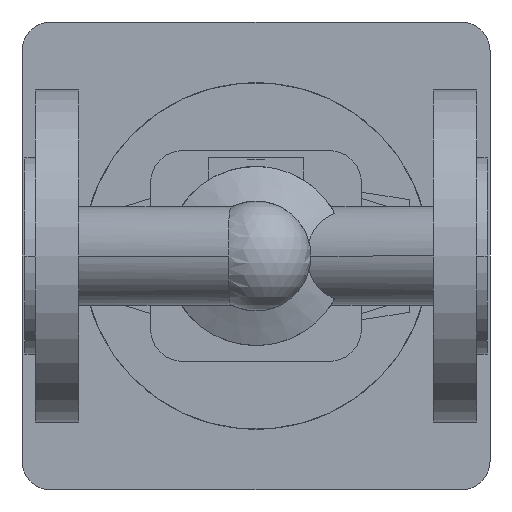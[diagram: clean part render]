
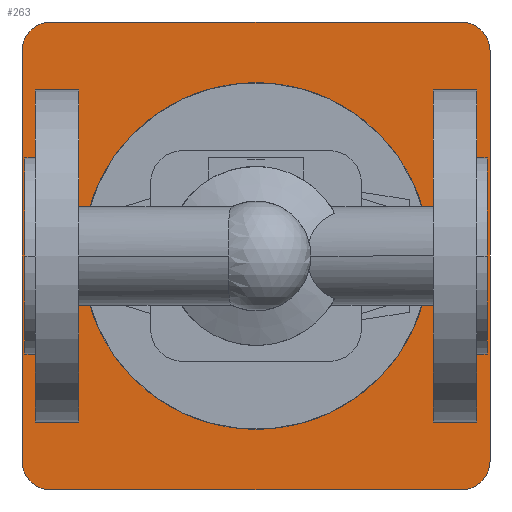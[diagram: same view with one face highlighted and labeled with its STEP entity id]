
A CAD part, front view. The second image highlights one B-rep face of the part: STEP entity #263.
In plain terms, the highlighted planar face has unit normal (0, -1, 0).
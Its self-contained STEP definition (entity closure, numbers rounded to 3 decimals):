
#263 = ADVANCED_FACE( '', ( #603, #604 ), #605, .F. );
#603 = FACE_OUTER_BOUND( '', #969, .T. );
#604 = FACE_BOUND( '', #970, .T. );
#605 = PLANE( '', #971 );
#969 = EDGE_LOOP( '', ( #2118, #2119, #2120, #2121, #2122, #2123, #2124, #2125 ) );
#970 = EDGE_LOOP( '', ( #2126, #2127 ) );
#971 = AXIS2_PLACEMENT_3D( '', #2128, #2129, #2130 );
#2118 = ORIENTED_EDGE( '', *, *, #2648, .F. );
#2119 = ORIENTED_EDGE( '', *, *, #2649, .F. );
#2120 = ORIENTED_EDGE( '', *, *, #2650, .F. );
#2121 = ORIENTED_EDGE( '', *, *, #2651, .F. );
#2122 = ORIENTED_EDGE( '', *, *, #2652, .F. );
#2123 = ORIENTED_EDGE( '', *, *, #2653, .F. );
#2124 = ORIENTED_EDGE( '', *, *, #2654, .F. );
#2125 = ORIENTED_EDGE( '', *, *, #2655, .F. );
#2126 = ORIENTED_EDGE( '', *, *, #2563, .F. );
#2127 = ORIENTED_EDGE( '', *, *, #2656, .F. );
#2128 = CARTESIAN_POINT( '', ( 80., 388., 0. ) );
#2129 = DIRECTION( '', ( 0., 1., 0. ) );
#2130 = DIRECTION( '', ( 0., 0., 1. ) );
#2563 = EDGE_CURVE( '', #3140, #3143, #3144, .T. );
#2648 = EDGE_CURVE( '', #3287, #3288, #3289, .T. );
#2649 = EDGE_CURVE( '', #3290, #3287, #3291, .T. );
#2650 = EDGE_CURVE( '', #3292, #3290, #3293, .T. );
#2651 = EDGE_CURVE( '', #3294, #3292, #3295, .T. );
#2652 = EDGE_CURVE( '', #3296, #3294, #3297, .T. );
#2653 = EDGE_CURVE( '', #3298, #3296, #3299, .T. );
#2654 = EDGE_CURVE( '', #3300, #3298, #3301, .T. );
#2655 = EDGE_CURVE( '', #3288, #3300, #3302, .T. );
#2656 = EDGE_CURVE( '', #3143, #3140, #3303, .T. );
#3140 = VERTEX_POINT( '', #4263 );
#3143 = VERTEX_POINT( '', #4267 );
#3144 = CIRCLE( '', #4268, 40. );
#3287 = VERTEX_POINT( '', #4466 );
#3288 = VERTEX_POINT( '', #4467 );
#3289 = CIRCLE( '', #4468, 10. );
#3290 = VERTEX_POINT( '', #4469 );
#3291 = LINE( '', #4470, #4471 );
#3292 = VERTEX_POINT( '', #4472 );
#3293 = CIRCLE( '', #4473, 10. );
#3294 = VERTEX_POINT( '', #4474 );
#3295 = LINE( '', #4475, #4476 );
#3296 = VERTEX_POINT( '', #4477 );
#3297 = CIRCLE( '', #4478, 10. );
#3298 = VERTEX_POINT( '', #4479 );
#3299 = LINE( '', #4480, #4481 );
#3300 = VERTEX_POINT( '', #4482 );
#3301 = CIRCLE( '', #4483, 10. );
#3302 = LINE( '', #4484, #4485 );
#3303 = CIRCLE( '', #4486, 40. );
#4263 = CARTESIAN_POINT( '', ( 40., 388., 0. ) );
#4267 = CARTESIAN_POINT( '', ( 120., 388., 0. ) );
#4268 = AXIS2_PLACEMENT_3D( '', #5044, #5045, #5046 );
#4466 = CARTESIAN_POINT( '', ( -1., 388., 71. ) );
#4467 = CARTESIAN_POINT( '', ( 9., 388., 81. ) );
#4468 = AXIS2_PLACEMENT_3D( '', #5189, #5190, #5191 );
#4469 = CARTESIAN_POINT( '', ( -1., 388., -71. ) );
#4470 = CARTESIAN_POINT( '', ( -1., 388., -71. ) );
#4471 = VECTOR( '', #5192, 1. );
#4472 = CARTESIAN_POINT( '', ( 9., 388., -81. ) );
#4473 = AXIS2_PLACEMENT_3D( '', #5193, #5194, #5195 );
#4474 = CARTESIAN_POINT( '', ( 151., 388., -81. ) );
#4475 = CARTESIAN_POINT( '', ( 151., 388., -81. ) );
#4476 = VECTOR( '', #5196, 1. );
#4477 = CARTESIAN_POINT( '', ( 161., 388., -71. ) );
#4478 = AXIS2_PLACEMENT_3D( '', #5197, #5198, #5199 );
#4479 = CARTESIAN_POINT( '', ( 161., 388., 71. ) );
#4480 = CARTESIAN_POINT( '', ( 161., 388., 71. ) );
#4481 = VECTOR( '', #5200, 1. );
#4482 = CARTESIAN_POINT( '', ( 151., 388., 81. ) );
#4483 = AXIS2_PLACEMENT_3D( '', #5201, #5202, #5203 );
#4484 = CARTESIAN_POINT( '', ( 9., 388., 81. ) );
#4485 = VECTOR( '', #5204, 1. );
#4486 = AXIS2_PLACEMENT_3D( '', #5205, #5206, #5207 );
#5044 = CARTESIAN_POINT( '', ( 80., 388., 0. ) );
#5045 = DIRECTION( '', ( 0., -1., 0. ) );
#5046 = DIRECTION( '', ( -1., 0., 0. ) );
#5189 = CARTESIAN_POINT( '', ( 9., 388., 71. ) );
#5190 = DIRECTION( '', ( 0., 1., 0. ) );
#5191 = DIRECTION( '', ( -1., 0., 0. ) );
#5192 = DIRECTION( '', ( 0., 0., 1. ) );
#5193 = CARTESIAN_POINT( '', ( 9., 388., -71. ) );
#5194 = DIRECTION( '', ( 0., 1., 0. ) );
#5195 = DIRECTION( '', ( 0., 0., -1. ) );
#5196 = DIRECTION( '', ( -1., 0., 0. ) );
#5197 = CARTESIAN_POINT( '', ( 151., 388., -71. ) );
#5198 = DIRECTION( '', ( 0., 1., 0. ) );
#5199 = DIRECTION( '', ( 1., 0., 0. ) );
#5200 = DIRECTION( '', ( 0., 0., -1. ) );
#5201 = CARTESIAN_POINT( '', ( 151., 388., 71. ) );
#5202 = DIRECTION( '', ( 0., 1., 0. ) );
#5203 = DIRECTION( '', ( 0., 0., 1. ) );
#5204 = DIRECTION( '', ( 1., 0., 0. ) );
#5205 = CARTESIAN_POINT( '', ( 80., 388., 0. ) );
#5206 = DIRECTION( '', ( 0., -1., 0. ) );
#5207 = DIRECTION( '', ( -1., 0., 0. ) );
